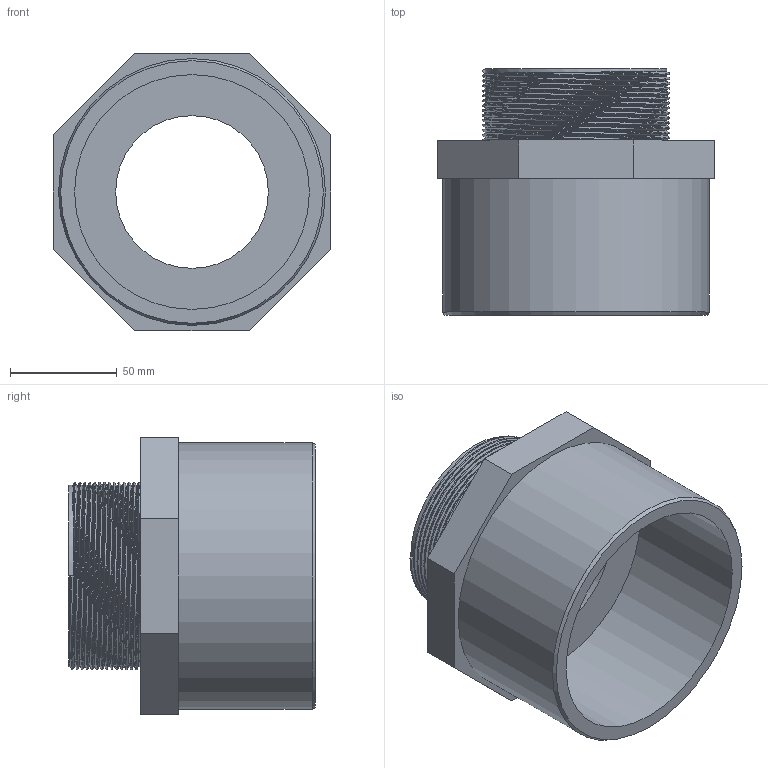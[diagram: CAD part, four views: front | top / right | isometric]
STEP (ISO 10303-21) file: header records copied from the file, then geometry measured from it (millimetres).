
FILE_DESCRIPTION(/* description */ ('PVC adattatore incollaggio-filettatura BSP maschio'),/* implementation_level */ '2;1');
FILE_NAME(/* name */ 'C:\Users\POLYPIPE\Desktop\DATASET INVENTOR\LIBRERIA EFFAST\RACCORDI 3DxWEB\RGR\3D_RGRAMG\3D_RGRAMG110I.stp',/* time_stamp */ '2018-01-19T17:37:47+01:00',/* author */ ('POLYPIPE'),/* organization */ ('Polypipe Italia s.r.l.'),/* preprocessor_version */ 'ST-DEVELOPER v16.1',/* originating_system */ 'Autodesk Inventor 2016',/* authorisation */ '');
FILE_SCHEMA (('CONFIG_CONTROL_DESIGN'));
Length unit declared in the file: millimetre
Products named in the file (1): 3D_RGRAMG
Bounding box: 130 x 115.5 x 130 mm (x, y, z)
Volume: 429954.6 mm3; surface area: 101169.4 mm2
Topology: 1 solids, 1 shells, 26 faces, 56 edges, 36 vertices
Faces by surface type: plane 15, cylinder 5, bspline 5, cone 1
Full cylindrical faces by diameter (mm): 71.5 x1, 72.5 x1, 84.926 x1, 110 x1, 125 x1
Entity records: 5977 total; most frequent: CARTESIAN_POINT 5424, ORIENTED_EDGE 102, DIRECTION 97, EDGE_CURVE 51, EDGE_LOOP 37, VERTEX_POINT 36, AXIS2_PLACEMENT_3D 35, LINE 27
